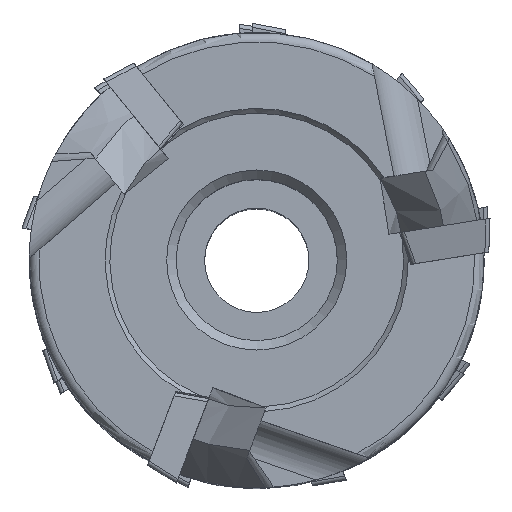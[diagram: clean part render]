
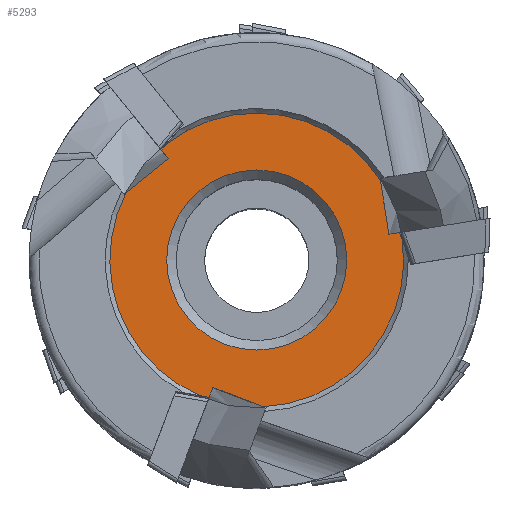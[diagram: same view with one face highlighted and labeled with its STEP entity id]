
A CAD part, top view. The second image highlights one B-rep face of the part: STEP entity #5293.
In plain terms, the highlighted planar face has unit normal (0, 0, 1).
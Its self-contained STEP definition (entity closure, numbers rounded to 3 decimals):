
#296=PLANE('',#5712);
#402=FACE_BOUND('',#805,.T.);
#510=FACE_OUTER_BOUND('',#804,.T.);
#804=EDGE_LOOP('',(#4147,#4148,#4149,#4150,#4151,#4152,#4153,#4154,#4155,
#4156,#4157,#4158));
#805=EDGE_LOOP('',(#4159));
#1301=CIRCLE('',#5607,15.5);
#1305=CIRCLE('',#5614,15.5);
#1307=CIRCLE('',#5621,15.5);
#1351=CIRCLE('',#5706,9.5);
#1510=LINE('',#8590,#1842);
#1515=LINE('',#8605,#1847);
#1521=LINE('',#8647,#1853);
#1532=LINE('',#8690,#1864);
#1586=LINE('',#11215,#1918);
#1589=LINE('',#11223,#1921);
#1592=LINE('',#11227,#1924);
#1595=LINE('',#11243,#1927);
#1596=LINE('',#11244,#1928);
#1842=VECTOR('',#6166,10.);
#1847=VECTOR('',#6179,10.);
#1853=VECTOR('',#6197,10.);
#1864=VECTOR('',#6222,10.);
#1918=VECTOR('',#6434,10.);
#1921=VECTOR('',#6441,10.);
#1924=VECTOR('',#6446,10.);
#1927=VECTOR('',#6465,10.);
#1928=VECTOR('',#6466,10.);
#2283=VERTEX_POINT('',#8587);
#2284=VERTEX_POINT('',#8589);
#2286=VERTEX_POINT('',#8595);
#2288=VERTEX_POINT('',#8598);
#2290=VERTEX_POINT('',#8604);
#2300=VERTEX_POINT('',#8640);
#2301=VERTEX_POINT('',#8642);
#2302=VERTEX_POINT('',#8646);
#2313=VERTEX_POINT('',#8685);
#2314=VERTEX_POINT('',#8689);
#2467=VERTEX_POINT('',#11221);
#2468=VERTEX_POINT('',#11222);
#2469=VERTEX_POINT('',#11229);
#2836=EDGE_CURVE('',#2284,#2283,#1510,.T.);
#2840=EDGE_CURVE('',#2286,#2288,#1301,.T.);
#2843=EDGE_CURVE('',#2290,#2286,#1515,.T.);
#2855=EDGE_CURVE('',#2300,#2301,#1305,.T.);
#2857=EDGE_CURVE('',#2302,#2301,#1521,.T.);
#2872=EDGE_CURVE('',#2313,#2283,#1307,.T.);
#2873=EDGE_CURVE('',#2314,#2313,#1532,.T.);
#3106=EDGE_CURVE('',#2290,#2284,#1586,.T.);
#3109=EDGE_CURVE('',#2467,#2468,#1589,.T.);
#3112=EDGE_CURVE('',#2314,#2302,#1592,.T.);
#3113=EDGE_CURVE('',#2469,#2469,#1351,.T.);
#3120=EDGE_CURVE('',#2467,#2300,#1595,.T.);
#3121=EDGE_CURVE('',#2468,#2288,#1596,.T.);
#4147=ORIENTED_EDGE('',*,*,#2843,.F.);
#4148=ORIENTED_EDGE('',*,*,#3106,.T.);
#4149=ORIENTED_EDGE('',*,*,#2836,.T.);
#4150=ORIENTED_EDGE('',*,*,#2872,.F.);
#4151=ORIENTED_EDGE('',*,*,#2873,.F.);
#4152=ORIENTED_EDGE('',*,*,#3112,.T.);
#4153=ORIENTED_EDGE('',*,*,#2857,.T.);
#4154=ORIENTED_EDGE('',*,*,#2855,.F.);
#4155=ORIENTED_EDGE('',*,*,#3120,.F.);
#4156=ORIENTED_EDGE('',*,*,#3109,.T.);
#4157=ORIENTED_EDGE('',*,*,#3121,.T.);
#4158=ORIENTED_EDGE('',*,*,#2840,.F.);
#4159=ORIENTED_EDGE('',*,*,#3113,.F.);
#5293=ADVANCED_FACE('',(#510,#402),#296,.T.);
#5607=AXIS2_PLACEMENT_3D('',#8599,#6172,#6173);
#5614=AXIS2_PLACEMENT_3D('',#8643,#6192,#6193);
#5621=AXIS2_PLACEMENT_3D('',#8687,#6218,#6219);
#5706=AXIS2_PLACEMENT_3D('',#11230,#6449,#6450);
#5712=AXIS2_PLACEMENT_3D('',#11242,#6463,#6464);
#6166=DIRECTION('',(-0.156,0.988,0.));
#6172=DIRECTION('center_axis',(0.,0.,-1.));
#6173=DIRECTION('ref_axis',(1.,0.,0.));
#6179=DIRECTION('',(0.342,-0.94,0.));
#6192=DIRECTION('center_axis',(0.,0.,-1.));
#6193=DIRECTION('ref_axis',(1.,0.,0.));
#6197=DIRECTION('',(-0.777,-0.629,0.));
#6218=DIRECTION('center_axis',(0.,0.,-1.));
#6219=DIRECTION('ref_axis',(1.,0.,0.));
#6222=DIRECTION('',(0.643,0.766,0.));
#6434=DIRECTION('',(-0.988,-0.156,0.));
#6441=DIRECTION('',(0.358,0.934,0.));
#6446=DIRECTION('',(0.629,-0.777,0.));
#6449=DIRECTION('center_axis',(0.,0.,1.));
#6450=DIRECTION('ref_axis',(-1.,0.,0.));
#6463=DIRECTION('center_axis',(0.,0.,1.));
#6464=DIRECTION('ref_axis',(1.,0.,0.));
#6465=DIRECTION('',(-0.985,0.174,0.));
#6466=DIRECTION('',(0.934,-0.358,0.));
#8587=CARTESIAN_POINT('',(13.053,8.359,86.8));
#8589=CARTESIAN_POINT('',(13.947,2.715,86.8));
#8590=CARTESIAN_POINT('',(13.986,2.468,86.8));
#8595=CARTESIAN_POINT('',(15.367,2.028,86.8));
#8598=CARTESIAN_POINT('',(0.712,-15.484,86.8));
#8599=CARTESIAN_POINT('Origin',(0.,0.,86.8));
#8604=CARTESIAN_POINT('',(15.053,2.89,86.8));
#8605=CARTESIAN_POINT('',(14.734,3.767,86.8));
#8640=CARTESIAN_POINT('',(-5.927,-14.322,86.8));
#8642=CARTESIAN_POINT('',(-13.765,7.125,86.8));
#8643=CARTESIAN_POINT('Origin',(0.,0.,86.8));
#8646=CARTESIAN_POINT('',(-9.325,10.721,86.8));
#8647=CARTESIAN_POINT('',(-9.131,10.878,86.8));
#8685=CARTESIAN_POINT('',(-9.44,12.294,86.8));
#8687=CARTESIAN_POINT('Origin',(0.,0.,86.8));
#8689=CARTESIAN_POINT('',(-10.03,11.591,86.8));
#8690=CARTESIAN_POINT('',(-10.63,10.876,86.8));
#11215=CARTESIAN_POINT('',(16.949,3.191,86.8));
#11221=CARTESIAN_POINT('',(-5.023,-14.481,86.8));
#11222=CARTESIAN_POINT('',(-4.622,-13.436,86.8));
#11223=CARTESIAN_POINT('',(-5.711,-16.273,86.8));
#11227=CARTESIAN_POINT('',(-11.238,13.083,86.8));
#11229=CARTESIAN_POINT('',(9.5,0.,86.8));
#11230=CARTESIAN_POINT('Origin',(0.,0.,86.8));
#11242=CARTESIAN_POINT('Origin',(0.,0.,86.8));
#11243=CARTESIAN_POINT('',(-4.104,-14.643,86.8));
#11244=CARTESIAN_POINT('',(-4.855,-13.346,86.8));
